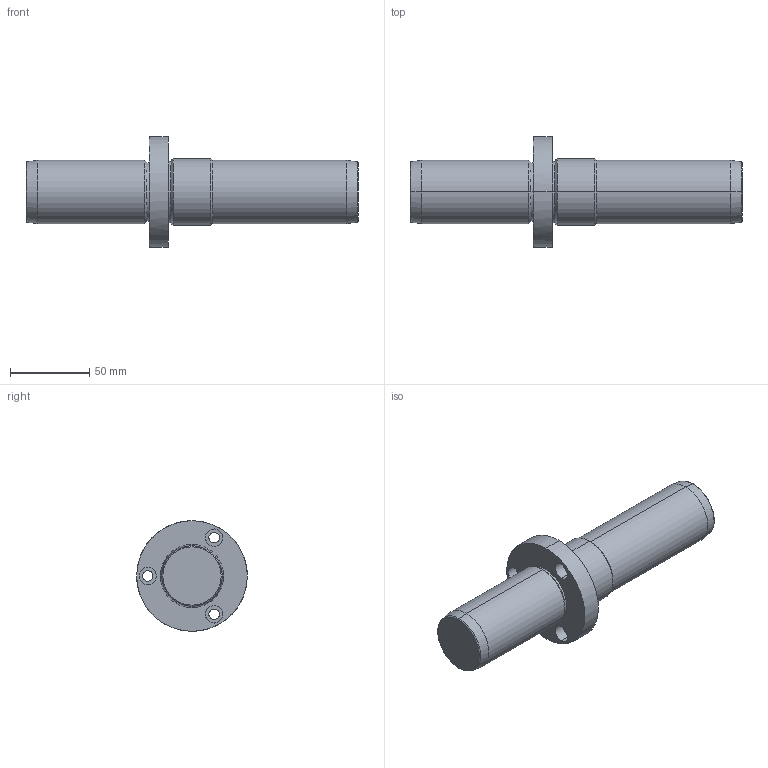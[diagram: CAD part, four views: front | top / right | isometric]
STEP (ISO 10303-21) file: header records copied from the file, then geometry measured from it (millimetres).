
FILE_DESCRIPTION(('CATIA V5 STEP Exchange'),'2;1');
FILE_NAME('C:\Users\Utente\Desktop\IO LAVORO\3D X SITO CF\X SITO\721\721-40x210.stp','2021-01-01T15:28:01+00:00',('none'),('none'),'CATIA Version 5 Release 20 GA (IN-10)','CATIA V5 STEP AP203','none');
FILE_SCHEMA(('CONFIG_CONTROL_DESIGN'));
Length unit declared in the file: millimetre
Products named in the file (1): 721-40x210
Bounding box: 210 x 70 x 70 mm (x, y, z)
Volume: 294354.5 mm3; surface area: 36302.5 mm2
Topology: 1 solids, 1 shells, 45 faces, 150 edges, 112 vertices
Faces by surface type: cylinder 24, cone 10, plane 7, torus 4
Entity records: 2048 total; most frequent: CARTESIAN_POINT 718, ORIENTED_EDGE 300, DIRECTION 206, EDGE_CURVE 150, AXIS2_PLACEMENT_3D 128, VERTEX_POINT 112, CIRCLE 82, EDGE_LOOP 56
